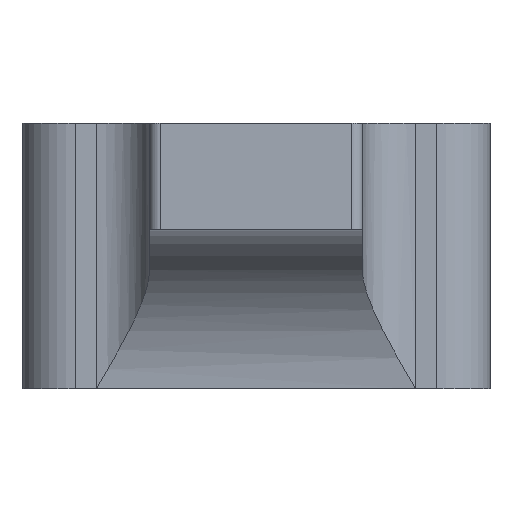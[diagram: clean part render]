
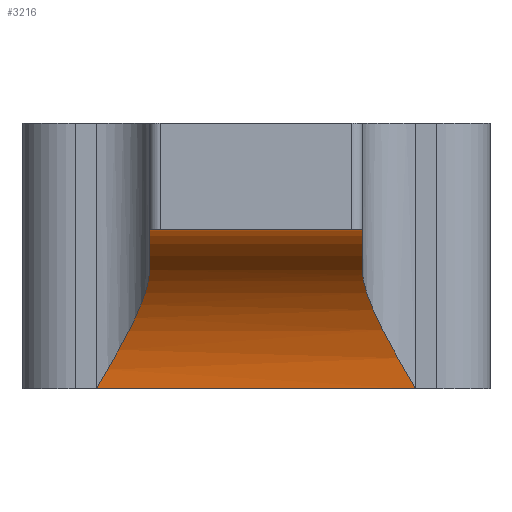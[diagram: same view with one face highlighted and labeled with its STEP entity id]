
A CAD part, front view. The second image highlights one B-rep face of the part: STEP entity #3216.
In plain terms, the highlighted cylindrical face has radius 15 mm (diameter 30 mm), a partial arc.
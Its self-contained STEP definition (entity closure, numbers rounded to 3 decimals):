
#107=B_SPLINE_CURVE_WITH_KNOTS('',3,(#4720,#4721,#4722,#4723,#4724,#4725,
#4726,#4727),.UNSPECIFIED.,.F.,.F.,(4,2,2,4),(2.998,3.334,
3.671,4.343),.UNSPECIFIED.);
#108=B_SPLINE_CURVE_WITH_KNOTS('',3,(#4730,#4731,#4732,#4733,#4734,#4735,
#4736,#4737),.UNSPECIFIED.,.F.,.F.,(4,2,2,4),(0.,0.672,1.009,
1.345),.UNSPECIFIED.);
#299=FACE_OUTER_BOUND('',#490,.T.);
#490=EDGE_LOOP('',(#2410,#2411,#2412,#2413,#2414,#2415));
#673=LINE('',#4264,#1041);
#776=LINE('',#4729,#1144);
#1041=VECTOR('',#3586,10.);
#1144=VECTOR('',#3717,10.);
#1404=CIRCLE('',#3414,15.);
#1408=CIRCLE('',#3421,15.);
#1428=VERTEX_POINT('',#4250);
#1429=VERTEX_POINT('',#4252);
#1433=VERTEX_POINT('',#4262);
#1438=VERTEX_POINT('',#4276);
#1588=VERTEX_POINT('',#4719);
#1589=VERTEX_POINT('',#4728);
#1751=EDGE_CURVE('',#1429,#1428,#1404,.T.);
#1757=EDGE_CURVE('',#1428,#1433,#673,.T.);
#1764=EDGE_CURVE('',#1438,#1433,#1408,.F.);
#1916=EDGE_CURVE('',#1588,#1438,#107,.F.);
#1917=EDGE_CURVE('',#1589,#1588,#776,.T.);
#1918=EDGE_CURVE('',#1589,#1429,#108,.T.);
#2410=ORIENTED_EDGE('',*,*,#1751,.T.);
#2411=ORIENTED_EDGE('',*,*,#1757,.T.);
#2412=ORIENTED_EDGE('',*,*,#1764,.F.);
#2413=ORIENTED_EDGE('',*,*,#1916,.F.);
#2414=ORIENTED_EDGE('',*,*,#1917,.F.);
#2415=ORIENTED_EDGE('',*,*,#1918,.T.);
#3200=CYLINDRICAL_SURFACE('',#3430,15.);
#3216=ADVANCED_FACE('',(#299),#3200,.F.);
#3414=AXIS2_PLACEMENT_3D('',#4253,#3576,#3577);
#3421=AXIS2_PLACEMENT_3D('',#4278,#3599,#3600);
#3430=AXIS2_PLACEMENT_3D('',#4718,#3715,#3716);
#3576=DIRECTION('center_axis',(1.,0.,0.));
#3577=DIRECTION('ref_axis',(0.,0.707,0.707));
#3586=DIRECTION('',(-1.,0.,0.));
#3599=DIRECTION('center_axis',(-1.,0.,0.));
#3600=DIRECTION('ref_axis',(0.,0.707,0.707));
#3715=DIRECTION('center_axis',(1.,0.,0.));
#3716=DIRECTION('ref_axis',(0.,0.707,0.707));
#3717=DIRECTION('',(-1.,0.,0.));
#4250=CARTESIAN_POINT('',(10.,-37.,0.));
#4252=CARTESIAN_POINT('',(10.,-27.,-3.82));
#4253=CARTESIAN_POINT('Origin',(10.,-37.,-15.));
#4262=CARTESIAN_POINT('',(-10.,-37.,0.));
#4264=CARTESIAN_POINT('',(-11.,-37.,0.));
#4276=CARTESIAN_POINT('',(-10.,-27.,-3.82));
#4278=CARTESIAN_POINT('Origin',(-10.,-37.,-15.));
#4718=CARTESIAN_POINT('Origin',(-11.,-37.,-15.));
#4719=CARTESIAN_POINT('',(-15.,-22.,-15.));
#4720=CARTESIAN_POINT('Ctrl Pts',(-10.,-27.,-3.82));
#4721=CARTESIAN_POINT('Ctrl Pts',(-10.,-26.165,-4.567));
#4722=CARTESIAN_POINT('Ctrl Pts',(-10.2,-25.436,-5.386));
#4723=CARTESIAN_POINT('Ctrl Pts',(-10.813,-24.179,-7.14));
#4724=CARTESIAN_POINT('Ctrl Pts',(-11.231,-23.653,-8.074));
#4725=CARTESIAN_POINT('Ctrl Pts',(-12.672,-22.395,-10.982));
#4726=CARTESIAN_POINT('Ctrl Pts',(-13.879,-22.,-13.059));
#4727=CARTESIAN_POINT('Ctrl Pts',(-15.,-22.,-15.));
#4728=CARTESIAN_POINT('',(15.,-22.,-15.));
#4729=CARTESIAN_POINT('',(22.,-22.,-15.));
#4730=CARTESIAN_POINT('Ctrl Pts',(15.,-22.,-15.));
#4731=CARTESIAN_POINT('Ctrl Pts',(13.879,-22.,-13.059));
#4732=CARTESIAN_POINT('Ctrl Pts',(12.672,-22.395,-10.982));
#4733=CARTESIAN_POINT('Ctrl Pts',(11.231,-23.653,-8.074));
#4734=CARTESIAN_POINT('Ctrl Pts',(10.813,-24.179,-7.14));
#4735=CARTESIAN_POINT('Ctrl Pts',(10.2,-25.436,-5.386));
#4736=CARTESIAN_POINT('Ctrl Pts',(10.,-26.165,-4.567));
#4737=CARTESIAN_POINT('Ctrl Pts',(10.,-27.,-3.82));
